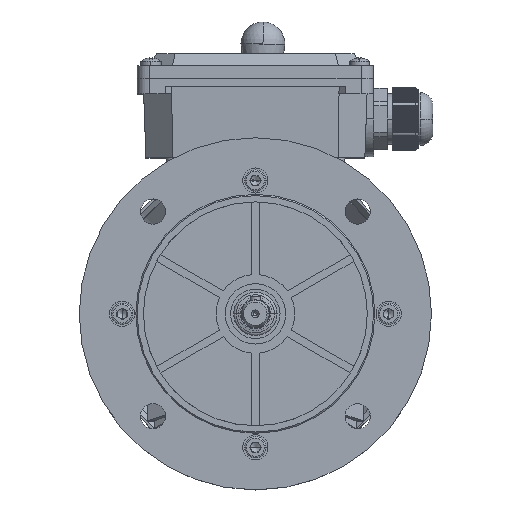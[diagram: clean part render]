
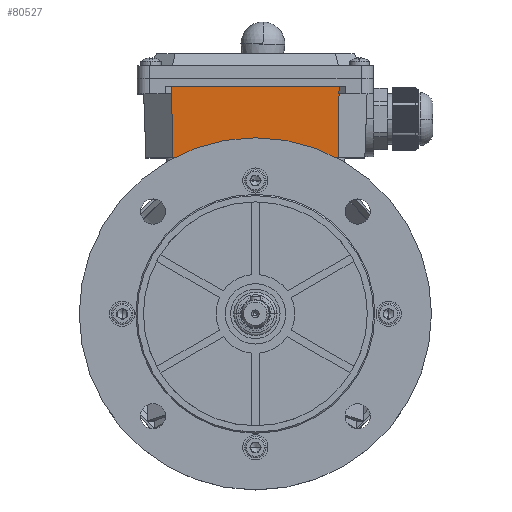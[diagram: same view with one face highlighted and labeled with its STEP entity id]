
A CAD part, top view. The second image highlights one B-rep face of the part: STEP entity #80527.
In plain terms, the highlighted planar face has unit normal (0, -0.035, 0.999).
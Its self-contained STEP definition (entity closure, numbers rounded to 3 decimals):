
#1539 = ORIENTED_EDGE ( 'NONE', *, *, #75979, .F. ) ;
#1757 = LINE ( 'NONE', #2328, #80961 ) ;
#1970 = ORIENTED_EDGE ( 'NONE', *, *, #59102, .F. ) ;
#2158 = VECTOR ( 'NONE', #109782, 1000. ) ;
#2328 = CARTESIAN_POINT ( 'NONE',  ( 31.202, 86.949, 62.395 ) ) ;
#7714 = ORIENTED_EDGE ( 'NONE', *, *, #22654, .T. ) ;
#8423 = LINE ( 'NONE', #97140, #94264 ) ;
#9228 = CARTESIAN_POINT ( 'NONE',  ( -35.317, 87.629, 62.419 ) ) ;
#14179 = CARTESIAN_POINT ( 'NONE',  ( 31.097, 86.949, 62.395 ) ) ;
#17306 = CARTESIAN_POINT ( 'NONE',  ( 31.202, 61.449, 61.505 ) ) ;
#18884 = EDGE_CURVE ( 'NONE', #48436, #106879, #22149, .T. ) ;
#19492 = AXIS2_PLACEMENT_3D ( 'NONE', #109260, #74358, #100659 ) ;
#22149 = LINE ( 'NONE', #102849, #2158 ) ;
#22654 = EDGE_CURVE ( 'NONE', #86034, #53310, #32701, .T. ) ;
#23868 = VECTOR ( 'NONE', #52869, 1000. ) ;
#28247 = EDGE_LOOP ( 'NONE', ( #1539, #46053, #1970, #106734, #53777, #7714, #78496, #50199 ) ) ;
#32701 = LINE ( 'NONE', #93422, #103563 ) ;
#33484 = CARTESIAN_POINT ( 'NONE',  ( 31.202, 89.949, 62.5 ) ) ;
#36713 = EDGE_CURVE ( 'NONE', #48436, #86034, #60927, .T. ) ;
#37470 = LINE ( 'NONE', #62757, #59081 ) ;
#40230 = CARTESIAN_POINT ( 'NONE',  ( -35.294, 86.949, 62.395 ) ) ;
#44778 = DIRECTION ( 'NONE',  ( 1., 0., 0. ) ) ;
#44933 = DIRECTION ( 'NONE',  ( 1., 0., 0. ) ) ;
#45624 = DIRECTION ( 'NONE',  ( 1., 0., 0. ) ) ;
#46053 = ORIENTED_EDGE ( 'NONE', *, *, #109284, .T. ) ;
#48436 = VERTEX_POINT ( 'NONE', #78221 ) ;
#50199 = ORIENTED_EDGE ( 'NONE', *, *, #56429, .T. ) ;
#50451 = VECTOR ( 'NONE', #96843, 1000. ) ;
#52869 = DIRECTION ( 'NONE',  ( 1., 0., 0. ) ) ;
#53310 = VERTEX_POINT ( 'NONE', #80107 ) ;
#53591 = CARTESIAN_POINT ( 'NONE',  ( 31.202, 89.949, 62.5 ) ) ;
#53743 = CARTESIAN_POINT ( 'NONE',  ( 30.789, 61.449, 61.505 ) ) ;
#53777 = ORIENTED_EDGE ( 'NONE', *, *, #36713, .T. ) ;
#55197 = VERTEX_POINT ( 'NONE', #14179 ) ;
#56429 = EDGE_CURVE ( 'NONE', #55197, #96183, #105013, .T. ) ;
#59081 = VECTOR ( 'NONE', #44933, 1000. ) ;
#59102 = EDGE_CURVE ( 'NONE', #106879, #88959, #1757, .T. ) ;
#60139 = VECTOR ( 'NONE', #79873, 1000. ) ;
#60927 = LINE ( 'NONE', #17306, #23868 ) ;
#62757 = CARTESIAN_POINT ( 'NONE',  ( 31.202, 89.949, 62.5 ) ) ;
#67685 = VERTEX_POINT ( 'NONE', #71860 ) ;
#71860 = CARTESIAN_POINT ( 'NONE',  ( -35.398, 89.949, 62.5 ) ) ;
#74358 = DIRECTION ( 'NONE',  ( 0., -0.035, 0.999 ) ) ;
#74902 = PLANE ( 'NONE',  #19492 ) ;
#75979 = EDGE_CURVE ( 'NONE', #67685, #96183, #37470, .T. ) ;
#76787 = DIRECTION ( 'NONE',  ( 0.014, 0.999, 0.035 ) ) ;
#78221 = CARTESIAN_POINT ( 'NONE',  ( -34.986, 61.449, 61.505 ) ) ;
#78496 = ORIENTED_EDGE ( 'NONE', *, *, #89620, .F. ) ;
#79873 = DIRECTION ( 'NONE',  ( 0.035, 0.999, 0.035 ) ) ;
#80107 = CARTESIAN_POINT ( 'NONE',  ( 31.158, 86.949, 62.395 ) ) ;
#80527 = ADVANCED_FACE ( 'NONE', ( #100116 ), #74902, .T. ) ;
#80961 = VECTOR ( 'NONE', #44778, 1000. ) ;
#86034 = VERTEX_POINT ( 'NONE', #53743 ) ;
#88959 = VERTEX_POINT ( 'NONE', #40230 ) ;
#89620 = EDGE_CURVE ( 'NONE', #55197, #53310, #8423, .T. ) ;
#93422 = CARTESIAN_POINT ( 'NONE',  ( 31.202, 89.949, 62.5 ) ) ;
#94264 = VECTOR ( 'NONE', #45624, 1000. ) ;
#96183 = VERTEX_POINT ( 'NONE', #33484 ) ;
#96843 = DIRECTION ( 'NONE',  ( 0.035, -0.999, -0.035 ) ) ;
#97140 = CARTESIAN_POINT ( 'NONE',  ( 31.202, 86.949, 62.395 ) ) ;
#100116 = FACE_OUTER_BOUND ( 'NONE', #28247, .T. ) ;
#100659 = DIRECTION ( 'NONE',  ( 0., 0.999, 0.035 ) ) ;
#102568 = CARTESIAN_POINT ( 'NONE',  ( -35.355, 86.949, 62.395 ) ) ;
#102849 = CARTESIAN_POINT ( 'NONE',  ( -35.398, 89.949, 62.5 ) ) ;
#103563 = VECTOR ( 'NONE', #76787, 1000. ) ;
#104802 = LINE ( 'NONE', #9228, #50451 ) ;
#105013 = LINE ( 'NONE', #53591, #60139 ) ;
#106734 = ORIENTED_EDGE ( 'NONE', *, *, #18884, .F. ) ;
#106879 = VERTEX_POINT ( 'NONE', #102568 ) ;
#109260 = CARTESIAN_POINT ( 'NONE',  ( 31.202, 89.949, 62.5 ) ) ;
#109284 = EDGE_CURVE ( 'NONE', #67685, #88959, #104802, .T. ) ;
#109782 = DIRECTION ( 'NONE',  ( -0.014, 0.999, 0.035 ) ) ;
